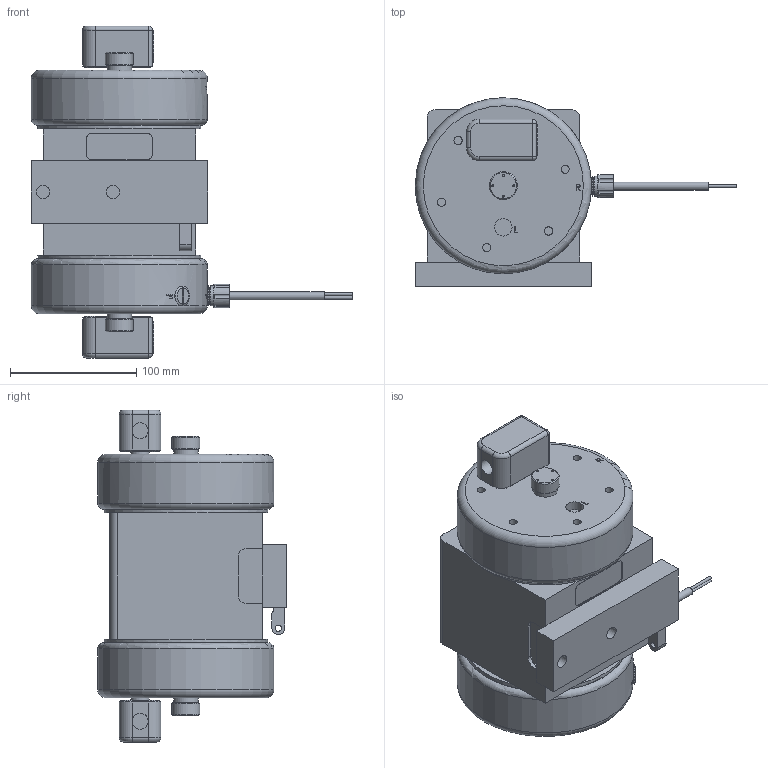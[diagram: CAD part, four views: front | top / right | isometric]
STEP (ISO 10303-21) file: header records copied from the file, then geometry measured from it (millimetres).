
FILE_DESCRIPTION (( 'STEP AP214' ), '1' );
FILE_NAME ('PFU030_solid model.STEP', '2013-07-25T15:13:05', ( '' ), ( '' ), 'SwSTEP 2.0', 'SolidWorks 2012', '' );
FILE_SCHEMA (( 'AUTOMOTIVE_DESIGN' ));
Length unit declared in the file: inch
Products named in the file (1): PFU030_solid model
Bounding box: 255.41 x 149.4 x 263.49 mm (x, y, z)
Volume: 3086108.5 mm3; surface area: 172660.2 mm2
Topology: 1 solids, 5 shells, 1074 faces, 2722 edges, 1795 vertices
Faces by surface type: plane 785, cylinder 126, bspline 125, cone 26, torus 8, sphere 4
Full cylindrical faces by diameter (mm): 1.6 x8, 2.362 x2, 3.251 x16, 3.302 x4, 4.445 x1, 4.902 x1, 6.35 x1, 6.477 x12, 10.312 x2, 12.725 x2, 13.934 x2, 14.656 x2, 15.875 x1, 15.938 x1, 16.002 x1, 16.701 x1, 18.542 x1, 19.475 x2, 22.225 x4, 25.19 x2, 38.1 x1, 129.819 x2, 139.7 x2
Entity records: 38710 total; most frequent: CARTESIAN_POINT 13135, ORIENTED_EDGE 5200, DIRECTION 4584, EDGE_CURVE 2600, LINE 1980, VECTOR 1980, VERTEX_POINT 1763, EDGE_LOOP 1309
